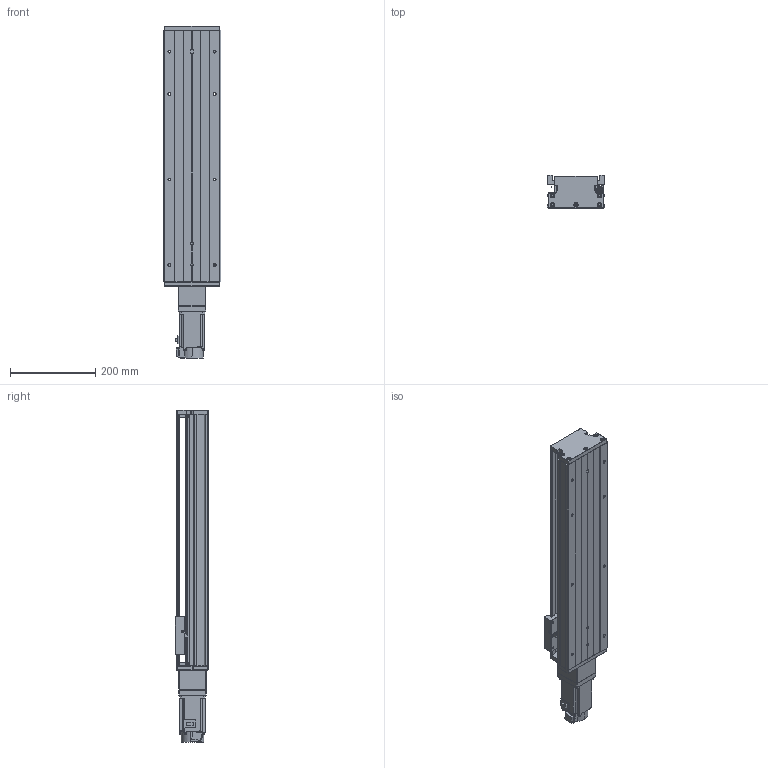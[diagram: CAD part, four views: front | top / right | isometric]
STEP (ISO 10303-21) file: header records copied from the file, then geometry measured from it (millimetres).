
FILE_DESCRIPTION (( 'STEP AP203' ), '1' );
FILE_NAME ('KTH130-450-BC-M40-C4.step', '2023-06-30T03:54:14', ( '微软用户' ), ( '微软中国' ), 'SwSTEP 2.0', 'SolidWorks 2020', '' );
FILE_SCHEMA (( 'CONFIG_CONTROL_DESIGN' ));
Length unit declared in the file: millimetre
Products named in the file (19): CTHA86-006-1_M40; KTH130-002_KTH130-002; EE_SX911P_R; CTHA86-013; KTH130-004; CTHA60-016; CTHA86-027-1; KTH130-005; GBT 70.1-M3℅5; HG-KN43J-S100; GB1155-6X6; GBT77-2000 M3×3; KTH130-450-BC-M40-C4; GBT70.1 M5℅16; す晦芛蹟隊 M3℅5; GBT 70.2-M3¡Á5_M3¡Á6; GBT 70.3-M3℅8; GTH14-001_450; CTHA60-017
Assembly tree (52 placements, depth 2):
  KTH130-450-BC-M40-C4
    GTH14-001_450
    KTH130-002_KTH130-002
    KTH130-004
    KTH130-005
    GB1155-6X6  x2
    GBT70.1 M5℅16  x10
    GBT 70.2-M3¡Á5_M3¡Á6  x4
    CTHA60-017  x3
    EE_SX911P_R  x3
    CTHA60-016  x2
    GBT 70.1-M3℅5  x6
    GBT77-2000 M3×3  x6
    す晦芛蹟隊 M3℅5  x2
    GBT 70.3-M3℅8  x6
    CTHA86-006-1_M40
    CTHA86-013
    CTHA86-027-1
    HG-KN43J-S100
Bounding box: 135 x 78 x 778.7 mm (x, y, z)
Volume: 3955110.7 mm3; surface area: 620558.7 mm2
Topology: 55 solids, 55 shells, 2172 faces, 5254 edges, 3278 vertices
Faces by surface type: plane 1192, cylinder 592, cone 280, torus 96, sphere 12
Entity records: 39574 total; most frequent: CARTESIAN_POINT 8426, DIRECTION 5865, ORIENTED_EDGE 5792, EDGE_CURVE 2896, AXIS2_PLACEMENT_3D 1991, LINE 1883, VECTOR 1883, VERTEX_POINT 1850
